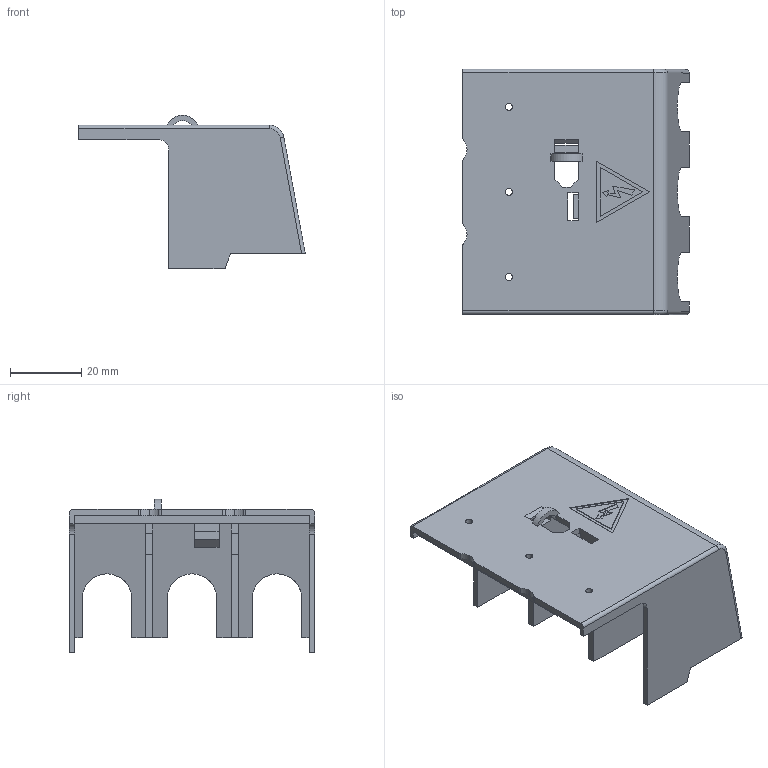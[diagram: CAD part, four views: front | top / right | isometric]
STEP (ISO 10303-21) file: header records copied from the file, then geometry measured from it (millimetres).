
FILE_DESCRIPTION (( 'STEP AP203' ), '1' );
FILE_NAME ('NF2-125TS3.STEP', '2024-03-01T06:43:05', ( 'wzjh' ), ( '' ), 'SwSTEP 2.0', 'SolidWorks 2023', '' );
FILE_SCHEMA (( 'CONFIG_CONTROL_DESIGN' ));
Length unit declared in the file: millimetre
Products named in the file (1): NF2-125TS3
Bounding box: 63.63 x 68.9 x 43.1 mm (x, y, z)
Volume: 18011.4 mm3; surface area: 21986.7 mm2
Topology: 1 solids, 1 shells, 123 faces, 365 edges, 242 vertices
Faces by surface type: plane 92, cylinder 29, torus 2
Entity records: 4184 total; most frequent: CARTESIAN_POINT 755, ORIENTED_EDGE 730, DIRECTION 657, EDGE_CURVE 365, VECTOR 305, LINE 305, VERTEX_POINT 242, AXIS2_PLACEMENT_3D 176
